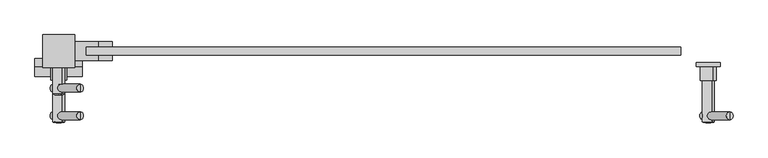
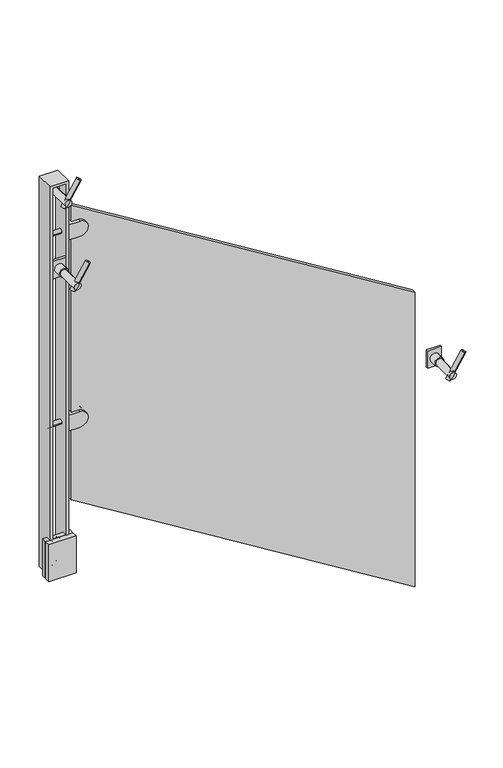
"""IFC4 building model written with IfcOpenShell, lengths in millimetres: proxy geometry, LIVERS_ICN - Glass Panel : LIVERS_ICN - Glass Panel."""

from ifc_helpers import new_model, si_unit, point, frame, origin, place, context, project, spatial, polyline, circle_curve, ellipse_curve, trimmed, outline, extrude, faceted_brep, source, transform, mapped, element, save
from ifc_brep_helpers import plane_surface, cylinder_surface, revolved_surface, advanced_brep


def building_element_proxy_b375c711(model_context):
    return source(origin(), model_context, "Body", "SolidModel", [
        advanced_brep(
        [(6.7299747, 60.3249609, 1366.7446361), (0.0, 60.3249609, 1355.9744253), (-6.7299747, 60.3249609, 1345.2042145), (6.7299747, 38.0999609, 1366.7446361), (-6.7299747, 38.0999609, 1345.2042145), (0.0, 38.0999609, 1355.9744253)],
        [
            (0, 1),
            (1, 2),
            (2, 0, circle_curve(frame((0.0, 60.3249609, 1355.9744253), z_axis=(0.0, 1.0, 0.0), x_axis=(-0.5299192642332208, 0.0, -0.8480480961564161)), 12.7)),
            (0, 2, circle_curve(frame((0.0, 60.3249609, 1355.9744253), z_axis=(0.0, 1.0, 0.0), x_axis=(-0.5299192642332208, 0.0, -0.8480480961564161)), 12.7)),
            (3, 0),
            (2, 4),
            (4, 3, circle_curve(frame((0.0, 38.0999609, 1355.9744253), z_axis=(0.0, 1.0, 0.0), x_axis=(-0.5299192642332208, 0.0, -0.8480480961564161)), 12.7)),
            (3, 4, circle_curve(frame((0.0, 38.0999609, 1355.9744253), z_axis=(0.0, 1.0, 0.0), x_axis=(-0.5299192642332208, 0.0, -0.8480480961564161)), 12.7)),
            (5, 3),
            (4, 5),
        ],
        [
            plane_surface(frame((0.0, 60.3249609, 1355.9744253), z_axis=(0.0, 1.0, 0.0), x_axis=(-0.5299192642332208, 0.0, -0.8480480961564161))),
            cylinder_surface(frame((0.0, 69.3828283, 1355.9744253), z_axis=(0.0, -1.0, 0.0), x_axis=(-0.5299192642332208, 0.0, -0.8480480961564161)), 12.7),
            plane_surface(frame((0.0, 38.0999609, 1355.9744253), z_axis=(0.0, -1.0, 0.0), x_axis=(-0.5299192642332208, 0.0, -0.8480480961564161))),
        ],
        [
            (0, [[1, 2, 3]]),
            (0, [[-2, -1, 4]]),
            (1, [[5, -3, 6, 7]]),
            (1, [[-6, -4, -5, 8]]),
            (2, [[9, -7, 10]]),
            (2, [[-10, -8, -9]]),
        ],
    ),
        advanced_brep(
        [(34.2676703, -25.4004131, 1410.8141613), (34.2676703, -19.0504161, 1410.8141613), (34.2676703, -12.7004191, 1410.8141613), (-8.335755, -25.4004131, 1342.6344287), (-8.335755, -12.7004191, 1342.6344287), (-8.335755, -19.0504161, 1342.6344287)],
        [
            (0, 1),
            (1, 2),
            (2, 0, circle_curve(frame((34.2676703, -19.0504161, 1410.8141613), z_axis=(0.5299192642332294, 0.0, 0.8480480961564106), x_axis=(0.0, 1.0, 0.0)), 6.349997)),
            (0, 2, circle_curve(frame((34.2676703, -19.0504161, 1410.8141613), z_axis=(0.5299192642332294, 0.0, 0.8480480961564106), x_axis=(0.0, 1.0, 0.0)), 6.349997)),
            (3, 0),
            (2, 4),
            (4, 3, circle_curve(frame((-8.335755, -19.0504161, 1342.6344287), z_axis=(0.5299192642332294, 0.0, 0.8480480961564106), x_axis=(0.0, 1.0, 0.0)), 6.349997)),
            (3, 4, circle_curve(frame((-8.335755, -19.0504161, 1342.6344287), z_axis=(0.5299192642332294, 0.0, 0.8480480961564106), x_axis=(0.0, 1.0, 0.0)), 6.349997)),
            (5, 3),
            (4, 5),
        ],
        [
            plane_surface(frame((34.2676703, -19.0504161, 1410.8141613), z_axis=(0.5299192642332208, 0.0, 0.8480480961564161), x_axis=(0.0, 1.0, 0.0))),
            cylinder_surface(frame((41.6075857, -19.0504161, 1422.5604813), z_axis=(-0.5299192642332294, 0.0, -0.8480480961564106), x_axis=(0.0, 1.0, 0.0)), 6.349997),
            plane_surface(frame((-8.335755, -19.0504161, 1342.6344287), z_axis=(-0.5299192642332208, 0.0, -0.8480480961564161), x_axis=(0.0, 1.0, 0.0))),
        ],
        [
            (0, [[1, 2, 3]]),
            (0, [[-2, -1, 4]]),
            (1, [[5, -3, 6, 7]]),
            (1, [[-6, -4, -5, 8]]),
            (2, [[9, -7, 10]]),
            (2, [[-10, -8, -9]]),
        ],
    ),
        advanced_brep(
        [(0.0, -30.1375464, 1355.9744253), (5.047481, -28.5500464, 1364.0520834), (-5.047481, -28.5500464, 1347.8967672), (5.047481, 38.0999609, 1364.0520834), (0.0, 38.0999609, 1355.9744253), (-5.047481, 38.0999609, 1347.8967672)],
        [
            (0, 1, circle_curve(frame((0.0, -0.7687964, 1355.9744253), z_axis=(-0.8480480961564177, 0.0, 0.529919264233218), x_axis=(0.0, 1.0, 0.0)), 29.36875)),
            (1, 2, circle_curve(frame((0.0, -28.5500464, 1355.9744253), z_axis=(0.0, -1.0, 0.0), x_axis=(-0.5299192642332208, 0.0, -0.8480480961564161)), 9.525)),
            (2, 0, circle_curve(frame((0.0, -0.7687964, 1355.9744253), z_axis=(-0.8480480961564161, 0.0, 0.5299192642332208), x_axis=(0.0, 1.0, 0.0)), 29.36875)),
            (2, 1, circle_curve(frame((0.0, -28.5500464, 1355.9744253), z_axis=(0.0, -1.0, 0.0), x_axis=(-0.5299192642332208, 0.0, -0.8480480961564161)), 9.525)),
            (3, 4),
            (4, 5),
            (5, 3, circle_curve(frame((0.0, 38.0999609, 1355.9744253), z_axis=(0.0, 1.0, 0.0), x_axis=(-0.5299192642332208, 0.0, -0.8480480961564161)), 9.525)),
            (3, 5, circle_curve(frame((0.0, 38.0999609, 1355.9744253), z_axis=(0.0, 1.0, 0.0), x_axis=(-0.5299192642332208, 0.0, -0.8480480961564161)), 9.525)),
            (1, 3),
            (5, 2),
        ],
        [
            revolved_surface(trimmed(ellipse_curve(frame((0.0, -0.7687964, 1355.9744253), z_axis=(-0.8480480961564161, 0.0, 0.5299192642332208), x_axis=(0.0, 1.0, 0.0)), 29.36875, 29.36875), [point((-5.047481, -28.5500464, 1347.8967672))], [point((0.0, -30.1375464, 1355.9744253))], True, "CARTESIAN"), (0.0, 30.3031204, 1355.9744253), (0.0, -1.0, 0.0)),
            plane_surface(frame((0.0, 38.0999609, 1355.9744253), z_axis=(0.0, 1.0, 0.0), x_axis=(-0.5299192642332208, 0.0, -0.8480480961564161))),
            cylinder_surface(frame((0.0, 30.3031204, 1355.9744253), z_axis=(0.0, -1.0, 0.0), x_axis=(-0.5299192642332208, 0.0, -0.8480480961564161)), 9.525),
        ],
        [
            (0, [[1, 2, 3]]),
            (0, [[-3, 4, -1]]),
            (1, [[5, 6, 7]]),
            (1, [[-6, -5, 8]]),
            (2, [[9, -7, 10, -2]]),
            (2, [[-10, -8, -9, -4]]),
        ],
    ),
        extrude(outline(polyline([(19.05, 66.6749609), (19.05, 60.3249609), (-19.05, 60.3249609), (-19.05, 66.6749609), (19.05, 66.6749609)])), frame((0.0, 0.0, 1330.5744253), z_axis=(0.0, 0.0, 1.0), x_axis=(1.0, 0.0, 0.0)), (0.0, 0.0, 1.0), 50.8),
        advanced_brep(
        [(6.7299747, 15.875, 1150.9958492), (0.0, 15.875, 1140.2256384), (-6.7299747, 15.875, 1129.4554276), (6.7299747, -6.35, 1150.9958492), (-6.7299747, -6.35, 1129.4554276), (0.0, -6.35, 1140.2256384)],
        [
            (0, 1),
            (1, 2),
            (2, 0, circle_curve(frame((0.0, 15.875, 1140.2256384), z_axis=(0.0, 1.0, 0.0), x_axis=(-0.5299192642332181, 0.0, -0.8480480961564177)), 12.7)),
            (0, 2, circle_curve(frame((0.0, 15.875, 1140.2256384), z_axis=(0.0, 1.0, 0.0), x_axis=(-0.5299192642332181, 0.0, -0.8480480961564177)), 12.7)),
            (3, 0),
            (2, 4),
            (4, 3, circle_curve(frame((0.0, -6.35, 1140.2256384), z_axis=(0.0, 1.0, 0.0), x_axis=(-0.5299192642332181, 0.0, -0.8480480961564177)), 12.7)),
            (3, 4, circle_curve(frame((0.0, -6.35, 1140.2256384), z_axis=(0.0, 1.0, 0.0), x_axis=(-0.5299192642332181, 0.0, -0.8480480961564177)), 12.7)),
            (5, 3),
            (4, 5),
        ],
        [
            plane_surface(frame((0.0, 15.875, 1140.2256384), z_axis=(0.0, 1.0, 0.0), x_axis=(-0.5299192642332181, 0.0, -0.8480480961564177))),
            cylinder_surface(frame((0.0, 24.9328674, 1140.2256384), z_axis=(0.0, -1.0, 0.0), x_axis=(-0.5299192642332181, 0.0, -0.8480480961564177)), 12.7),
            plane_surface(frame((0.0, -6.35, 1140.2256384), z_axis=(0.0, -1.0, 0.0), x_axis=(-0.5299192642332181, 0.0, -0.8480480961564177))),
        ],
        [
            (0, [[1, 2, 3]]),
            (0, [[-2, -1, 4]]),
            (1, [[5, -3, 6, 7]]),
            (1, [[-6, -4, -5, 8]]),
            (2, [[9, -7, 10]]),
            (2, [[-10, -8, -9]]),
        ],
    ),
        advanced_brep(
        [(34.2676703, -69.850374, 1195.0653743), (34.2676703, -63.500377, 1195.0653743), (34.2676703, -57.15038, 1195.0653743), (-8.335755, -69.850374, 1126.8856418), (-8.335755, -57.15038, 1126.8856418), (-8.335755, -63.500377, 1126.8856418)],
        [
            (0, 1),
            (1, 2),
            (2, 0, circle_curve(frame((34.2676703, -63.500377, 1195.0653743), z_axis=(0.5299192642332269, 0.0, 0.8480480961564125), x_axis=(0.0, 1.0, 0.0)), 6.349997)),
            (0, 2, circle_curve(frame((34.2676703, -63.500377, 1195.0653743), z_axis=(0.5299192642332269, 0.0, 0.8480480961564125), x_axis=(0.0, 1.0, 0.0)), 6.349997)),
            (3, 0),
            (2, 4),
            (4, 3, circle_curve(frame((-8.335755, -63.500377, 1126.8856418), z_axis=(0.5299192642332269, 0.0, 0.8480480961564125), x_axis=(0.0, 1.0, 0.0)), 6.349997)),
            (3, 4, circle_curve(frame((-8.335755, -63.500377, 1126.8856418), z_axis=(0.5299192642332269, 0.0, 0.8480480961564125), x_axis=(0.0, 1.0, 0.0)), 6.349997)),
            (5, 3),
            (4, 5),
        ],
        [
            plane_surface(frame((34.2676703, -63.500377, 1195.0653743), z_axis=(0.5299192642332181, 0.0, 0.8480480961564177), x_axis=(0.0, 1.0, 0.0))),
            cylinder_surface(frame((41.6075857, -63.500377, 1206.8116944), z_axis=(-0.5299192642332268, 0.0, -0.8480480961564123), x_axis=(0.0, 1.0, 0.0)), 6.349997),
            plane_surface(frame((-8.335755, -63.500377, 1126.8856418), z_axis=(-0.5299192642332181, 0.0, -0.8480480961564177), x_axis=(0.0, 1.0, 0.0))),
        ],
        [
            (0, [[1, 2, 3]]),
            (0, [[-2, -1, 4]]),
            (1, [[5, -3, 6, 7]]),
            (1, [[-6, -4, -5, 8]]),
            (2, [[9, -7, 10]]),
            (2, [[-10, -8, -9]]),
        ],
    ),
        advanced_brep(
        [(0.0, -74.5875073, 1140.2256384), (5.047481, -73.0000073, 1148.3032965), (-5.047481, -73.0000073, 1132.1479803), (5.047481, -6.35, 1148.3032965), (0.0, -6.35, 1140.2256384), (-5.047481, -6.35, 1132.1479803)],
        [
            (0, 1, circle_curve(frame((0.0, -45.2187573, 1140.2256384), z_axis=(-0.8480480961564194, 0.0, 0.5299192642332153), x_axis=(0.0, 1.0, 0.0)), 29.36875)),
            (1, 2, circle_curve(frame((0.0, -73.0000073, 1140.2256384), z_axis=(0.0, -1.0, 0.0), x_axis=(-0.5299192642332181, 0.0, -0.8480480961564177)), 9.525)),
            (2, 0, circle_curve(frame((0.0, -45.2187573, 1140.2256384), z_axis=(-0.8480480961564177, 0.0, 0.5299192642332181), x_axis=(0.0, 1.0, 0.0)), 29.36875)),
            (2, 1, circle_curve(frame((0.0, -73.0000073, 1140.2256384), z_axis=(0.0, -1.0, 0.0), x_axis=(-0.5299192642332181, 0.0, -0.8480480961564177)), 9.525)),
            (3, 4),
            (4, 5),
            (5, 3, circle_curve(frame((0.0, -6.35, 1140.2256384), z_axis=(0.0, 1.0, 0.0), x_axis=(-0.5299192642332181, 0.0, -0.8480480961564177)), 9.525)),
            (3, 5, circle_curve(frame((0.0, -6.35, 1140.2256384), z_axis=(0.0, 1.0, 0.0), x_axis=(-0.5299192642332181, 0.0, -0.8480480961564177)), 9.525)),
            (1, 3),
            (5, 2),
        ],
        [
            revolved_surface(trimmed(ellipse_curve(frame((0.0, -45.2187573, 1140.2256384), z_axis=(-0.8480480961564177, 0.0, 0.5299192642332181), x_axis=(0.0, 1.0, 0.0)), 29.36875, 29.36875), [point((-5.047481, -73.0000073, 1132.1479803))], [point((0.0, -74.5875073, 1140.2256384))], True, "CARTESIAN"), (0.0, -14.1468405, 1140.2256384), (0.0, -1.0, 0.0)),
            plane_surface(frame((0.0, -6.35, 1140.2256384), z_axis=(0.0, 1.0, 0.0), x_axis=(-0.5299192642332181, 0.0, -0.8480480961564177))),
            cylinder_surface(frame((0.0, -14.1468405, 1140.2256384), z_axis=(0.0, -1.0, 0.0), x_axis=(-0.5299192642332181, 0.0, -0.8480480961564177)), 9.525),
        ],
        [
            (0, [[1, 2, 3]]),
            (0, [[-3, 4, -1]]),
            (1, [[5, 6, 7]]),
            (1, [[-6, -5, 8]]),
            (2, [[9, -7, 10, -2]]),
            (2, [[-10, -8, -9, -4]]),
        ],
    ),
        extrude(outline(polyline([(19.05, 22.225), (19.05, 15.875), (-19.05, 15.875), (-19.05, 22.225), (19.05, 22.225)])), frame((0.0, 0.0, 1114.8256384), z_axis=(0.0, 0.0, 1.0), x_axis=(1.0, 0.0, 0.0)), (0.0, 0.0, 1.0), 50.8),
        advanced_brep(
        [(1048.3972835, 15.875, 524.650521), (1041.6673088, 15.875, 513.8803102), (1034.9373341, 15.875, 503.1100993), (1048.3972835, -6.35, 524.650521), (1034.9373341, -6.35, 503.1100993), (1041.6673088, -6.35, 513.8803102)],
        [
            (0, 1),
            (1, 2),
            (2, 0, circle_curve(frame((1041.6673088, 15.875, 513.8803102), z_axis=(0.0, 1.0, 0.0), x_axis=(-0.5299192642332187, 0.0, -0.8480480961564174)), 12.7)),
            (0, 2, circle_curve(frame((1041.6673088, 15.875, 513.8803102), z_axis=(0.0, 1.0, 0.0), x_axis=(-0.5299192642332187, 0.0, -0.8480480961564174)), 12.7)),
            (3, 0),
            (2, 4),
            (4, 3, circle_curve(frame((1041.6673088, -6.35, 513.8803102), z_axis=(0.0, 1.0, 0.0), x_axis=(-0.5299192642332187, 0.0, -0.8480480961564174)), 12.7)),
            (3, 4, circle_curve(frame((1041.6673088, -6.35, 513.8803102), z_axis=(0.0, 1.0, 0.0), x_axis=(-0.5299192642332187, 0.0, -0.8480480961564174)), 12.7)),
            (5, 3),
            (4, 5),
        ],
        [
            plane_surface(frame((1041.6673088, 15.875, 513.8803102), z_axis=(0.0, 1.0, 0.0), x_axis=(-0.5299192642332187, 0.0, -0.8480480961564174))),
            cylinder_surface(frame((1041.6673088, 24.9328674, 513.8803102), z_axis=(0.0, -1.0, 0.0), x_axis=(-0.5299192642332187, 0.0, -0.8480480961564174)), 12.7),
            plane_surface(frame((1041.6673088, -6.35, 513.8803102), z_axis=(0.0, -1.0, 0.0), x_axis=(-0.5299192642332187, 0.0, -0.8480480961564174))),
        ],
        [
            (0, [[1, 2, 3]]),
            (0, [[-2, -1, 4]]),
            (1, [[5, -3, 6, 7]]),
            (1, [[-6, -4, -5, 8]]),
            (2, [[9, -7, 10]]),
            (2, [[-10, -8, -9]]),
        ],
    ),
        advanced_brep(
        [(1075.9349791, -69.850374, 568.7200461), (1075.9349791, -63.500377, 568.7200461), (1075.9349791, -57.15038, 568.7200461), (1033.3315538, -69.850374, 500.5403135), (1033.3315538, -57.15038, 500.5403135), (1033.3315538, -63.500377, 500.5403135)],
        [
            (0, 1),
            (1, 2),
            (2, 0, circle_curve(frame((1075.9349791, -63.500377, 568.7200461), z_axis=(0.5299192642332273, 0.0, 0.848048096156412), x_axis=(0.0, 1.0, 0.0)), 6.349997)),
            (0, 2, circle_curve(frame((1075.9349791, -63.500377, 568.7200461), z_axis=(0.5299192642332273, 0.0, 0.848048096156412), x_axis=(0.0, 1.0, 0.0)), 6.349997)),
            (3, 0),
            (2, 4),
            (4, 3, circle_curve(frame((1033.3315538, -63.500377, 500.5403135), z_axis=(0.5299192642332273, 0.0, 0.848048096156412), x_axis=(0.0, 1.0, 0.0)), 6.349997)),
            (3, 4, circle_curve(frame((1033.3315538, -63.500377, 500.5403135), z_axis=(0.5299192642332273, 0.0, 0.848048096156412), x_axis=(0.0, 1.0, 0.0)), 6.349997)),
            (5, 3),
            (4, 5),
        ],
        [
            plane_surface(frame((1075.9349791, -63.500377, 568.7200461), z_axis=(0.5299192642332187, 0.0, 0.8480480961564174), x_axis=(0.0, 1.0, 0.0))),
            cylinder_surface(frame((1083.2748945, -63.500377, 580.4663662), z_axis=(-0.5299192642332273, 0.0, -0.848048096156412), x_axis=(0.0, 1.0, 0.0)), 6.349997),
            plane_surface(frame((1033.3315538, -63.500377, 500.5403135), z_axis=(-0.5299192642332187, 0.0, -0.8480480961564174), x_axis=(0.0, 1.0, 0.0))),
        ],
        [
            (0, [[1, 2, 3]]),
            (0, [[-2, -1, 4]]),
            (1, [[5, -3, 6, 7]]),
            (1, [[-6, -4, -5, 8]]),
            (2, [[9, -7, 10]]),
            (2, [[-10, -8, -9]]),
        ],
    ),
        advanced_brep(
        [(1041.6673088, -74.5875073, 513.8803102), (1046.7147898, -73.0000073, 521.9579683), (1036.6198278, -73.0000073, 505.802652), (1046.7147898, -6.35, 521.9579683), (1041.6673088, -6.35, 513.8803102), (1036.6198278, -6.35, 505.802652)],
        [
            (0, 1, circle_curve(frame((1041.6673088, -45.2187573, 513.8803102), z_axis=(-0.8480480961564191, 0.0, 0.5299192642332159), x_axis=(0.0, 1.0, 0.0)), 29.36875)),
            (1, 2, circle_curve(frame((1041.6673088, -73.0000073, 513.8803102), z_axis=(0.0, -1.0, 0.0), x_axis=(-0.5299192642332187, 0.0, -0.8480480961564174)), 9.525)),
            (2, 0, circle_curve(frame((1041.6673088, -45.2187573, 513.8803102), z_axis=(-0.8480480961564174, 0.0, 0.5299192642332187), x_axis=(0.0, 1.0, 0.0)), 29.36875)),
            (2, 1, circle_curve(frame((1041.6673088, -73.0000073, 513.8803102), z_axis=(0.0, -1.0, 0.0), x_axis=(-0.5299192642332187, 0.0, -0.8480480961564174)), 9.525)),
            (3, 4),
            (4, 5),
            (5, 3, circle_curve(frame((1041.6673088, -6.35, 513.8803102), z_axis=(0.0, 1.0, 0.0), x_axis=(-0.5299192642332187, 0.0, -0.8480480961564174)), 9.525)),
            (3, 5, circle_curve(frame((1041.6673088, -6.35, 513.8803102), z_axis=(0.0, 1.0, 0.0), x_axis=(-0.5299192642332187, 0.0, -0.8480480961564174)), 9.525)),
            (1, 3),
            (5, 2),
        ],
        [
            revolved_surface(trimmed(ellipse_curve(frame((1041.6673088, -45.2187573, 513.8803102), z_axis=(-0.8480480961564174, 0.0, 0.5299192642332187), x_axis=(0.0, 1.0, 0.0)), 29.36875, 29.36875), [point((1036.6198278, -73.0000073, 505.802652))], [point((1041.6673088, -74.5875073, 513.8803102))], True, "CARTESIAN"), (1041.6673088, -14.1468405, 513.8803102), (0.0, -1.0, 0.0)),
            plane_surface(frame((1041.6673088, -6.35, 513.8803102), z_axis=(0.0, 1.0, 0.0), x_axis=(-0.5299192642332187, 0.0, -0.8480480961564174))),
            cylinder_surface(frame((1041.6673088, -14.1468405, 513.8803102), z_axis=(0.0, -1.0, 0.0), x_axis=(-0.5299192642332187, 0.0, -0.8480480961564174)), 9.525),
        ],
        [
            (0, [[1, 2, 3]]),
            (0, [[-3, 4, -1]]),
            (1, [[5, 6, 7]]),
            (1, [[-6, -5, 8]]),
            (2, [[9, -7, 10, -2]]),
            (2, [[-10, -8, -9, -4]]),
        ],
    ),
        extrude(outline(polyline([(1060.7173088, 22.225), (1060.7173088, 15.875), (1022.6173088, 15.875), (1022.6173088, 22.225), (1060.7173088, 22.225)])), frame((0.0, 0.0, 488.4803102), z_axis=(0.0, 0.0, 1.0), x_axis=(1.0, 0.0, 0.0)), (0.0, 0.0, 1.0), 50.8),
        advanced_brep(
        [(25.4, 55.5624457, 690.99329), (25.4, 55.5624457, 646.54329), (25.4, 25.3999457, 646.54329), (25.4, 25.3999457, 690.99329), (63.601094, 55.5624457, 690.99329), (63.601094, 55.5624457, 646.54329), (63.601094, 46.8311957, 646.54329), (44.2719192, 46.8311957, 646.54329), (44.2719192, 34.1311957, 646.54329), (63.601094, 34.1311957, 646.54329), (63.601094, 25.3999457, 646.54329), (63.601094, 25.3999457, 690.99329), (63.601094, 34.1311957, 690.99329), (44.2719192, 34.1311957, 690.99329), (44.2719192, 46.8311957, 690.99329), (63.601094, 46.8311957, 690.99329)],
        [
            (0, 1),
            (1, 2),
            (2, 3),
            (3, 0),
            (0, 4),
            (4, 5, circle_curve(frame((63.601094, 55.5624457, 668.76829), z_axis=(0.0, 1.0, 0.0), x_axis=(0.0, 0.0, -1.0)), 22.225)),
            (5, 1),
            (5, 6),
            (6, 7),
            (7, 8),
            (8, 9),
            (9, 10),
            (10, 2),
            (10, 11, circle_curve(frame((63.601094, 25.3999457, 668.76829), z_axis=(0.0, -1.0, 0.0), x_axis=(0.0, 0.0, -1.0)), 22.225)),
            (11, 3),
            (11, 12),
            (12, 13),
            (13, 14),
            (14, 15),
            (15, 4),
            (13, 8),
            (7, 14),
            (6, 15, circle_curve(frame((63.601094, 46.8311957, 668.76829), z_axis=(0.0, -1.0, 0.0), x_axis=(0.0, 0.0, -1.0)), 22.225)),
            (12, 9, circle_curve(frame((63.601094, 34.1311957, 668.76829), z_axis=(0.0, 1.0, 0.0), x_axis=(0.0, 0.0, -1.0)), 22.225)),
        ],
        [
            plane_surface(frame((25.4, 55.5624457, 646.54329), z_axis=(-1.0, 0.0, 0.0), x_axis=(0.0, 0.0, 1.0))),
            plane_surface(frame((85.9030808, 55.5624457, 690.99329), z_axis=(0.0, 1.0, 0.0), x_axis=(-1.0, 0.0, 0.0))),
            plane_surface(frame((85.9030808, 55.5624457, 646.54329), z_axis=(0.0, 0.0, -1.0), x_axis=(-1.0, 0.0, 0.0))),
            plane_surface(frame((85.9030808, 25.3999457, 646.54329), z_axis=(0.0, -1.0, 0.0), x_axis=(-1.0, 0.0, 0.0))),
            plane_surface(frame((85.9030808, 25.3999457, 690.99329), z_axis=(0.0, 0.0, 1.0), x_axis=(-1.0, 0.0, 0.0))),
            plane_surface(frame((44.2719192, 46.8311957, 646.54329), z_axis=(1.0, 0.0, 0.0), x_axis=(0.0, 0.0, 1.0))),
            plane_surface(frame((85.9030808, 46.8311957, 690.99329), z_axis=(0.0, -1.0, 0.0), x_axis=(-1.0, 0.0, 0.0))),
            plane_surface(frame((85.9030808, 34.1311957, 646.54329), z_axis=(0.0, 1.0, 0.0), x_axis=(-1.0, 0.0, 0.0))),
            cylinder_surface(frame((63.601094, 55.5624457, 668.76829), z_axis=(0.0, 1.0, 0.0), x_axis=(0.0, 0.0, -1.0)), 22.225),
        ],
        [
            (0, [[1, 2, 3, 4]]),
            (1, [[5, 6, 7, -1]]),
            (2, [[-7, 8, 9, 10, 11, 12, 13, -2]]),
            (3, [[-13, 14, 15, -3]]),
            (4, [[-15, 16, 17, 18, 19, 20, -5, -4]]),
            (5, [[-18, 21, -10, 22]]),
            (6, [[-9, 23, -19, -22]]),
            (7, [[-17, 24, -11, -21]]),
            (8, [[-20, -23, -8, -6]]),
            (8, [[-24, -16, -14, -12]]),
        ],
    ),
        advanced_brep(
        [(25.4, 55.5624457, 1249.79329), (25.4, 55.5624457, 1205.34329), (25.4, 25.3999457, 1205.34329), (25.4, 25.3999457, 1249.79329), (63.601094, 55.5624457, 1249.79329), (63.601094, 55.5624457, 1205.34329), (63.601094, 46.8311957, 1205.34329), (44.2719192, 46.8311957, 1205.34329), (44.2719192, 34.1311957, 1205.34329), (63.601094, 34.1311957, 1205.34329), (63.601094, 25.3999457, 1205.34329), (63.601094, 25.3999457, 1249.79329), (63.601094, 34.1311957, 1249.79329), (44.2719192, 34.1311957, 1249.79329), (44.2719192, 46.8311957, 1249.79329), (63.601094, 46.8311957, 1249.79329)],
        [
            (0, 1),
            (1, 2),
            (2, 3),
            (3, 0),
            (0, 4),
            (4, 5, circle_curve(frame((63.601094, 55.5624457, 1227.56829), z_axis=(0.0, 1.0, 0.0), x_axis=(0.0, 0.0, -1.0)), 22.225)),
            (5, 1),
            (5, 6),
            (6, 7),
            (7, 8),
            (8, 9),
            (9, 10),
            (10, 2),
            (10, 11, circle_curve(frame((63.601094, 25.3999457, 1227.56829), z_axis=(0.0, -1.0, 0.0), x_axis=(0.0, 0.0, -1.0)), 22.225)),
            (11, 3),
            (11, 12),
            (12, 13),
            (13, 14),
            (14, 15),
            (15, 4),
            (13, 8),
            (7, 14),
            (6, 15, circle_curve(frame((63.601094, 46.8311957, 1227.56829), z_axis=(0.0, -1.0, 0.0), x_axis=(0.0, 0.0, -1.0)), 22.225)),
            (12, 9, circle_curve(frame((63.601094, 34.1311957, 1227.56829), z_axis=(0.0, 1.0, 0.0), x_axis=(0.0, 0.0, -1.0)), 22.225)),
        ],
        [
            plane_surface(frame((25.4, 55.5624457, 1205.34329), z_axis=(-1.0, 0.0, 0.0), x_axis=(0.0, 0.0, 1.0))),
            plane_surface(frame((85.9030808, 55.5624457, 1249.79329), z_axis=(0.0, 1.0, 0.0), x_axis=(-1.0, 0.0, 0.0))),
            plane_surface(frame((85.9030808, 55.5624457, 1205.34329), z_axis=(0.0, 0.0, -1.0), x_axis=(-1.0, 0.0, 0.0))),
            plane_surface(frame((85.9030808, 25.3999457, 1205.34329), z_axis=(0.0, -1.0, 0.0), x_axis=(-1.0, 0.0, 0.0))),
            plane_surface(frame((85.9030808, 25.3999457, 1249.79329), z_axis=(0.0, 0.0, 1.0), x_axis=(-1.0, 0.0, 0.0))),
            plane_surface(frame((44.2719192, 46.8311957, 1205.34329), z_axis=(1.0, 0.0, 0.0), x_axis=(0.0, 0.0, 1.0))),
            plane_surface(frame((85.9030808, 46.8311957, 1249.79329), z_axis=(0.0, -1.0, 0.0), x_axis=(-1.0, 0.0, 0.0))),
            plane_surface(frame((85.9030808, 34.1311957, 1205.34329), z_axis=(0.0, 1.0, 0.0), x_axis=(-1.0, 0.0, 0.0))),
            cylinder_surface(frame((63.601094, 55.5624457, 1227.56829), z_axis=(0.0, 1.0, 0.0), x_axis=(0.0, 0.0, -1.0)), 22.225),
        ],
        [
            (0, [[1, 2, 3, 4]]),
            (1, [[5, 6, 7, -1]]),
            (2, [[-7, 8, 9, 10, 11, 12, 13, -2]]),
            (3, [[-13, 14, 15, -3]]),
            (4, [[-15, 16, 17, 18, 19, 20, -5, -4]]),
            (5, [[-18, 21, -10, 22]]),
            (6, [[-9, 23, -19, -22]]),
            (7, [[-17, 24, -11, -21]]),
            (8, [[-20, -23, -8, -6]]),
            (8, [[-24, -16, -14, -12]]),
        ],
    ),
        advanced_brep(
        [(0.0, 28.575, 252.1022565), (0.0, 29.7562407, 252.1022565), (0.0, 29.7562407, 274.3272677), (0.0, 28.575, 274.3272677), (0.0, 28.575, 263.2147621), (0.0, 32.325, 257.6022565), (0.0, 30.8816229, 263.2147621), (0.0, 32.325, 268.8272677), (0.0, 34.8740117, 257.6022565), (0.0, 34.8740117, 268.8272677), (0.0, 33.8500285, 254.6542501), (0.0, 33.8500285, 271.775274), (0.0, 31.8562692, 252.8959742), (0.0, 31.8562692, 273.53355)],
        [
            (0, 1),
            (1, 2, circle_curve(frame((0.0, 29.7562407, 263.2147621), z_axis=(0.0, -1.0, 0.0), x_axis=(0.0, 0.0, 1.0)), 11.1125056)),
            (2, 3),
            (3, 0, circle_curve(frame((0.0, 28.575, 263.2147621), z_axis=(0.0, 1.0, 0.0), x_axis=(0.0, 0.0, 1.0)), 11.1125056)),
            (2, 1, circle_curve(frame((0.0, 29.7562407, 263.2147621), z_axis=(0.0, -1.0, 0.0), x_axis=(0.0, 0.0, 1.0)), 11.1125056)),
            (0, 3, circle_curve(frame((0.0, 28.575, 263.2147621), z_axis=(0.0, 1.0, 0.0), x_axis=(0.0, 0.0, 1.0)), 11.1125056)),
            (4, 0),
            (3, 4),
            (5, 6),
            (6, 7),
            (7, 5, circle_curve(frame((0.0, 32.325, 263.2147621), z_axis=(0.0, 1.0, 0.0), x_axis=(0.0, 0.0, 1.0)), 5.6125056)),
            (5, 7, circle_curve(frame((0.0, 32.325, 263.2147621), z_axis=(0.0, 1.0, 0.0), x_axis=(0.0, 0.0, 1.0)), 5.6125056)),
            (8, 5),
            (7, 9),
            (9, 8, circle_curve(frame((0.0, 34.8740117, 263.2147621), z_axis=(0.0, 1.0, 0.0), x_axis=(0.0, 0.0, 1.0)), 5.6125056)),
            (8, 9, circle_curve(frame((0.0, 34.8740117, 263.2147621), z_axis=(0.0, 1.0, 0.0), x_axis=(0.0, 0.0, 1.0)), 5.6125056)),
            (10, 8, circle_curve(frame((0.0, 31.75, 257.0355324), z_axis=(1.0, 0.0, 0.0), x_axis=(0.0, -1.0, 0.0)), 3.175)),
            (9, 11, circle_curve(frame((0.0, 31.75, 269.3939917), z_axis=(1.0, 0.0, 0.0), x_axis=(0.0, -1.0, 0.0)), 3.175)),
            (11, 10, circle_curve(frame((0.0, 33.8500285, 263.2147621), z_axis=(0.0, 1.0, 0.0), x_axis=(0.0, 0.0, 1.0)), 8.560512)),
            (10, 11, circle_curve(frame((0.0, 33.8500285, 263.2147621), z_axis=(0.0, 1.0, 0.0), x_axis=(0.0, 0.0, 1.0)), 8.560512)),
            (12, 10),
            (11, 13),
            (13, 12, circle_curve(frame((0.0, 31.8562692, 263.2147621), z_axis=(0.0, 1.0, 0.0), x_axis=(0.0, 0.0, 1.0)), 10.3187879)),
            (12, 13, circle_curve(frame((0.0, 31.8562692, 263.2147621), z_axis=(0.0, 1.0, 0.0), x_axis=(0.0, 0.0, 1.0)), 10.3187879)),
            (1, 12, circle_curve(frame((0.0, 29.7562407, 255.2772565), z_axis=(1.0, 0.0, 0.0), x_axis=(0.0, -1.0, 0.0)), 3.175)),
            (13, 2, circle_curve(frame((0.0, 29.7562407, 271.1522677), z_axis=(1.0, 0.0, 0.0), x_axis=(0.0, -1.0, 0.0)), 3.175)),
        ],
        [
            cylinder_surface(frame((0.0, 28.575, 263.2147621), z_axis=(0.0, -1.0, 0.0), x_axis=(0.0, 0.0, 1.0)), 11.1125056),
            plane_surface(frame((0.0, 28.575, 263.2147621), z_axis=(0.0, -1.0, 0.0), x_axis=(0.0, 0.0, 1.0))),
            revolved_surface(polyline([(0.0, 30.8816229, 263.2147621), (0.0, 32.325, 268.8272677)]), (0.0, 28.575, 263.2147621), (0.0, -1.0, 0.0)),
            revolved_surface(polyline([(0.0, 32.325, 268.8272677), (0.0, 34.8740117, 268.8272677)]), (0.0, 28.575, 263.2147621), (0.0, -1.0, 0.0)),
            revolved_surface(trimmed(ellipse_curve(frame((0.0, 31.75, 269.3939917), z_axis=(1.0, 0.0, 0.0), x_axis=(0.0, -1.0, 0.0)), 3.175, 3.175), [point((0.0, 34.8740117, 268.8272677))], [point((0.0, 33.8500285, 271.775274))], True, "CARTESIAN"), (0.0, 28.575, 263.2147621), (0.0, -1.0, 0.0)),
            revolved_surface(polyline([(0.0, 33.8500285, 271.775274), (0.0, 31.8562692, 273.53355)]), (0.0, 28.575, 263.2147621), (0.0, -1.0, 0.0)),
            revolved_surface(trimmed(ellipse_curve(frame((0.0, 29.7562407, 271.1522677), z_axis=(1.0, 0.0, 0.0), x_axis=(0.0, -1.0, 0.0)), 3.175, 3.175), [point((0.0, 31.8562692, 273.53355))], [point((0.0, 29.7562407, 274.3272677))], True, "CARTESIAN"), (0.0, 28.575, 263.2147621), (0.0, -1.0, 0.0)),
        ],
        [
            (0, [[1, 2, 3, 4]]),
            (0, [[-3, 5, -1, 6]]),
            (1, [[7, -4, 8]]),
            (1, [[-8, -6, -7]]),
            (2, [[9, 10, 11]]),
            (2, [[-10, -9, 12]]),
            (3, [[13, -11, 14, 15]]),
            (3, [[-14, -12, -13, 16]]),
            (4, [[17, -15, 18, 19]]),
            (4, [[-18, -16, -17, 20]]),
            (5, [[21, -19, 22, 23]]),
            (5, [[-22, -20, -21, 24]]),
            (6, [[25, -23, 26, -2]]),
            (6, [[-26, -24, -25, -5]]),
        ],
    ),
        advanced_brep(
        [(0.0, 28.575, 321.9522565), (0.0, 29.7562407, 321.9522565), (0.0, 29.7562407, 344.1772677), (0.0, 28.575, 344.1772677), (0.0, 28.575, 333.0647621), (0.0, 33.8500285, 324.5042501), (0.0, 34.8740117, 327.4522565), (0.0, 34.8740117, 338.6772677), (0.0, 33.8500285, 341.625274), (0.0, 31.8562692, 322.7459742), (0.0, 31.8562692, 343.38355), (0.0, 32.325, 327.4522565), (0.0, 30.8816229, 333.0647621), (0.0, 32.325, 338.6772677)],
        [
            (0, 1),
            (1, 2, circle_curve(frame((0.0, 29.7562407, 333.0647621), z_axis=(0.0, -1.0, 0.0), x_axis=(0.0, 0.0, 1.0)), 11.1125056)),
            (2, 3),
            (3, 0, circle_curve(frame((0.0, 28.575, 333.0647621), z_axis=(0.0, 1.0, 0.0), x_axis=(0.0, 0.0, 1.0)), 11.1125056)),
            (2, 1, circle_curve(frame((0.0, 29.7562407, 333.0647621), z_axis=(0.0, -1.0, 0.0), x_axis=(0.0, 0.0, 1.0)), 11.1125056)),
            (0, 3, circle_curve(frame((0.0, 28.575, 333.0647621), z_axis=(0.0, 1.0, 0.0), x_axis=(0.0, 0.0, 1.0)), 11.1125056)),
            (4, 0),
            (3, 4),
            (5, 6, circle_curve(frame((0.0, 31.75, 326.8855324), z_axis=(1.0, 0.0, 0.0), x_axis=(0.0, -1.0, 0.0)), 3.175)),
            (6, 7, circle_curve(frame((0.0, 34.8740117, 333.0647621), z_axis=(0.0, -1.0, 0.0), x_axis=(0.0, 0.0, 1.0)), 5.6125056)),
            (7, 8, circle_curve(frame((0.0, 31.75, 339.2439917), z_axis=(1.0, 0.0, 0.0), x_axis=(0.0, -1.0, 0.0)), 3.175)),
            (8, 5, circle_curve(frame((0.0, 33.8500285, 333.0647621), z_axis=(0.0, 1.0, 0.0), x_axis=(0.0, 0.0, 1.0)), 8.560512)),
            (7, 6, circle_curve(frame((0.0, 34.8740117, 333.0647621), z_axis=(0.0, -1.0, 0.0), x_axis=(0.0, 0.0, 1.0)), 5.6125056)),
            (5, 8, circle_curve(frame((0.0, 33.8500285, 333.0647621), z_axis=(0.0, 1.0, 0.0), x_axis=(0.0, 0.0, 1.0)), 8.560512)),
            (9, 5),
            (8, 10),
            (10, 9, circle_curve(frame((0.0, 31.8562692, 333.0647621), z_axis=(0.0, 1.0, 0.0), x_axis=(0.0, 0.0, 1.0)), 10.3187879)),
            (9, 10, circle_curve(frame((0.0, 31.8562692, 333.0647621), z_axis=(0.0, 1.0, 0.0), x_axis=(0.0, 0.0, 1.0)), 10.3187879)),
            (1, 9, circle_curve(frame((0.0, 29.7562407, 325.1272565), z_axis=(1.0, 0.0, 0.0), x_axis=(0.0, -1.0, 0.0)), 3.175)),
            (10, 2, circle_curve(frame((0.0, 29.7562407, 341.0022677), z_axis=(1.0, 0.0, 0.0), x_axis=(0.0, -1.0, 0.0)), 3.175)),
            (11, 12),
            (12, 13),
            (13, 11, circle_curve(frame((0.0, 32.325, 333.0647621), z_axis=(0.0, 1.0, 0.0), x_axis=(0.0, 0.0, 1.0)), 5.6125056)),
            (11, 13, circle_curve(frame((0.0, 32.325, 333.0647621), z_axis=(0.0, 1.0, 0.0), x_axis=(0.0, 0.0, 1.0)), 5.6125056)),
            (6, 11),
            (13, 7),
        ],
        [
            cylinder_surface(frame((0.0, 28.575, 333.0647621), z_axis=(0.0, -1.0, 0.0), x_axis=(0.0, 0.0, 1.0)), 11.1125056),
            plane_surface(frame((0.0, 28.575, 333.0647621), z_axis=(0.0, -1.0, 0.0), x_axis=(0.0, 0.0, 1.0))),
            revolved_surface(trimmed(ellipse_curve(frame((0.0, 31.75, 339.2439917), z_axis=(1.0, 0.0, 0.0), x_axis=(0.0, -1.0, 0.0)), 3.175, 3.175), [point((0.0, 34.8740117, 338.6772677))], [point((0.0, 33.8500285, 341.625274))], True, "CARTESIAN"), (0.0, 28.575, 333.0647621), (0.0, -1.0, 0.0)),
            revolved_surface(polyline([(0.0, 33.8500285, 341.625274), (0.0, 31.8562692, 343.38355)]), (0.0, 28.575, 333.0647621), (0.0, -1.0, 0.0)),
            revolved_surface(trimmed(ellipse_curve(frame((0.0, 29.7562407, 341.0022677), z_axis=(1.0, 0.0, 0.0), x_axis=(0.0, -1.0, 0.0)), 3.175, 3.175), [point((0.0, 31.8562692, 343.38355))], [point((0.0, 29.7562407, 344.1772677))], True, "CARTESIAN"), (0.0, 28.575, 333.0647621), (0.0, -1.0, 0.0)),
            revolved_surface(polyline([(0.0, 30.8816229, 333.0647621), (0.0, 32.325, 338.6772677)]), (0.0, 28.575, 333.0647621), (0.0, -1.0, 0.0)),
            revolved_surface(polyline([(0.0, 32.325, 338.6772677), (0.0, 34.8740117, 338.6772677)]), (0.0, 28.575, 333.0647621), (0.0, -1.0, 0.0)),
        ],
        [
            (0, [[1, 2, 3, 4]]),
            (0, [[-3, 5, -1, 6]]),
            (1, [[7, -4, 8]]),
            (1, [[-8, -6, -7]]),
            (2, [[9, 10, 11, 12]]),
            (2, [[-11, 13, -9, 14]]),
            (3, [[15, -12, 16, 17]]),
            (3, [[-16, -14, -15, 18]]),
            (4, [[19, -17, 20, -2]]),
            (4, [[-20, -18, -19, -5]]),
            (5, [[21, 22, 23]]),
            (5, [[-22, -21, 24]]),
            (6, [[25, -23, 26, -10]]),
            (6, [[-26, -24, -25, -13]]),
        ],
    ),
        faceted_brep([(25.4, 14.2874305, 1387.7244253), (25.4, 14.2874305, 244.1647621), (25.4, 15.875, 244.1647621), (25.4, 15.875, 352.1147621), (25.4, 28.575, 352.1147621), (25.4, 28.575, 244.1647621), (25.4, 66.6749609, 244.1647621), (25.4, 66.6749609, 1387.7244253), (19.05, 66.6749609, 244.1647621), (19.05, 28.575, 244.1647621), (19.05, 28.575, 352.1147621), (19.05, 15.875, 352.1147621), (19.05, 15.875, 244.1647621), (19.05, 14.2874305, 244.1647621), (19.05, 14.2874305, 1381.3744253), (19.05, 66.6749609, 1381.3744253), (-38.1, 28.575, 244.1647621), (-25.4, 28.575, 244.1647621), (-25.4, 66.6749609, 244.1647621), (-19.05, 66.6749609, 244.1647621), (-19.05, 28.575, 244.1647621), (38.1, 28.575, 244.1647621), (38.1, 15.875, 244.1647621), (-19.05, 15.875, 244.1647621), (-19.05, 14.2874305, 244.1647621), (-25.4, 14.2874305, 244.1647621), (-25.4, 15.875, 244.1647621), (-38.1, 15.875, 244.1647621), (-25.4, 14.2874305, 1387.7244253), (-19.05, 14.2874305, 1381.3744253), (-25.4, 66.6749609, 1387.7244253), (-19.05, 66.6749609, 1381.3744253), (-19.05, 15.875, 352.1147621), (-19.05, 28.575, 352.1147621), (-25.4, 28.575, 352.1147621), (-25.4, 15.875, 352.1147621), (38.1, 28.575, 352.1147621), (-38.1, 28.575, 352.1147621), (-38.1, 15.875, 352.1147621), (38.1, 15.875, 352.1147621)], [[[0, 1, 2, 3, 4, 5, 6, 7]], [[8, 9, 10, 11, 12, 13, 14, 15]], [[16, 17, 18, 19, 20, 9, 8, 6, 5, 21, 22, 2, 1, 13, 12, 23, 24, 25, 26, 27]], [[1, 0, 28, 25, 24, 29, 14, 13]], [[7, 30, 28, 0]], [[8, 15, 31, 19, 18, 30, 7, 6]], [[24, 23, 32, 33, 20, 19, 31, 29]], [[14, 29, 31, 15]], [[30, 18, 17, 34, 35, 26, 25, 28]], [[20, 33, 10, 9]], [[21, 5, 4, 36]], [[37, 34, 17, 16]], [[12, 11, 32, 23]], [[27, 26, 35, 38]], [[39, 3, 2, 22]], [[36, 39, 22, 21]], [[33, 32, 11, 10]], [[36, 4, 3, 39]], [[38, 35, 34, 37]], [[16, 27, 38, 37]]]),
        extrude(outline(polyline([(38.1, 15.875), (38.1, 0.0), (-38.1, 0.0), (-38.1, 15.875), (38.1, 15.875)])), frame((0.0, 0.0, 244.1647621), z_axis=(0.0, 0.0, 1.0), x_axis=(1.0, 0.0, 0.0)), (0.0, 0.0, 1.0), 107.95),
        advanced_brep(
        [(-19.05, 41.2749421, 668.7682955), (-19.05, 47.5989918, 668.7682955), (-19.05, 34.9508924, 668.7682955), (19.0639862, 47.5989918, 668.7682955), (19.0639862, 41.2749421, 668.7682955), (19.0639862, 34.9508924, 668.7682955)],
        [
            (0, 1),
            (1, 2, circle_curve(frame((-19.05, 41.2749421, 668.7682955), z_axis=(-1.0, 0.0, 0.0), x_axis=(0.0, -1.0, 0.0)), 6.3240497)),
            (2, 0),
            (2, 1, circle_curve(frame((-19.05, 41.2749421, 668.7682955), z_axis=(-1.0, 0.0, 0.0), x_axis=(0.0, -1.0, 0.0)), 6.3240497)),
            (3, 4),
            (4, 5),
            (5, 3, circle_curve(frame((19.0639862, 41.2749421, 668.7682955), z_axis=(1.0, 0.0, 0.0), x_axis=(0.0, -1.0, 0.0)), 6.3240497)),
            (3, 5, circle_curve(frame((19.0639862, 41.2749421, 668.7682955), z_axis=(1.0, 0.0, 0.0), x_axis=(0.0, -1.0, 0.0)), 6.3240497)),
            (1, 3),
            (5, 2),
        ],
        [
            plane_surface(frame((-19.05, 41.2749421, 668.7682955), z_axis=(-1.0, 0.0, 0.0), x_axis=(0.0, -1.0, 0.0))),
            plane_surface(frame((19.0639862, 41.2749421, 668.7682955), z_axis=(1.0, 0.0, 0.0), x_axis=(0.0, -1.0, 0.0))),
            cylinder_surface(frame((-19.05, 41.2749421, 668.7682955), z_axis=(-1.0, 0.0, 0.0), x_axis=(0.0, -1.0, 0.0)), 6.3240497),
        ],
        [
            (0, [[1, 2, 3]]),
            (0, [[-3, 4, -1]]),
            (1, [[5, 6, 7]]),
            (1, [[-6, -5, 8]]),
            (2, [[9, -7, 10, -2]]),
            (2, [[-10, -8, -9, -4]]),
        ],
    ),
        advanced_brep(
        [(-19.05, 41.2749421, 1227.5682955), (-19.05, 47.5989918, 1227.5682955), (-19.05, 34.9508924, 1227.5682955), (19.0639862, 47.5989918, 1227.5682955), (19.0639862, 41.2749421, 1227.5682955), (19.0639862, 34.9508924, 1227.5682955)],
        [
            (0, 1),
            (1, 2, circle_curve(frame((-19.05, 41.2749421, 1227.5682955), z_axis=(-1.0, 0.0, 0.0), x_axis=(0.0, -1.0, 0.0)), 6.3240497)),
            (2, 0),
            (2, 1, circle_curve(frame((-19.05, 41.2749421, 1227.5682955), z_axis=(-1.0, 0.0, 0.0), x_axis=(0.0, -1.0, 0.0)), 6.3240497)),
            (3, 4),
            (4, 5),
            (5, 3, circle_curve(frame((19.0639862, 41.2749421, 1227.5682955), z_axis=(1.0, 0.0, 0.0), x_axis=(0.0, -1.0, 0.0)), 6.3240497)),
            (3, 5, circle_curve(frame((19.0639862, 41.2749421, 1227.5682955), z_axis=(1.0, 0.0, 0.0), x_axis=(0.0, -1.0, 0.0)), 6.3240497)),
            (1, 3),
            (5, 2),
        ],
        [
            plane_surface(frame((-19.05, 41.2749421, 1227.5682955), z_axis=(-1.0, 0.0, 0.0), x_axis=(0.0, -1.0, 0.0))),
            plane_surface(frame((19.0639862, 41.2749421, 1227.5682955), z_axis=(1.0, 0.0, 0.0), x_axis=(0.0, -1.0, 0.0))),
            cylinder_surface(frame((-19.05, 41.2749421, 1227.5682955), z_axis=(-1.0, 0.0, 0.0), x_axis=(0.0, -1.0, 0.0)), 6.3240497),
        ],
        [
            (0, [[1, 2, 3]]),
            (0, [[-3, 4, -1]]),
            (1, [[5, 6, 7]]),
            (1, [[-6, -5, 8]]),
            (2, [[9, -7, 10, -2]]),
            (2, [[-10, -8, -9, -4]]),
        ],
    ),
        extrude(outline(polyline([(-154.1129679, 997.3953896), (709.4870321, 997.3953896), (1298.0524742, 44.2719192), (434.4524742, 44.2719192), (-154.1129679, 997.3953896)])), frame((0.0, 34.1309994, 0.0), z_axis=(0.0, 1.0, 0.0), x_axis=(0.0, 0.0, 1.0)), (0.0, 0.0, 1.0), 12.7001962),
    ])


if __name__ == "__main__":
    model = new_model("IFC4")
    model_context = context("Model", 3, world=origin())
    ifc_project = project(units=[si_unit("LENGTHUNIT", "METRE", prefix="MILLI")], contexts=[model_context])
    site = spatial("IfcSite", under=ifc_project)
    building = spatial("IfcBuilding", under=site)
    placement = place(None, origin())
    building_element_proxy_shape = building_element_proxy_b375c711(model_context)
    element("IfcBuildingElementProxy", 1, Name="LIVERS_ICN - Glass Panel : LIVERS_ICN - Glass Panel", ObjectType="LIVERS_ICN - Glass Panel : LIVERS_ICN - Glass Panel", at=placement, inside=building, context=model_context, shape_type="MappedRepresentation", body=[
        mapped(building_element_proxy_shape, transform((0.0, 0.0, 0.0), x_axis=(1.0, 0.0, 0.0), y_axis=(0.0, 1.0, 0.0), z_axis=(0.0, 0.0, 1.0))),
    ])
    save(model, "model.ifc")
